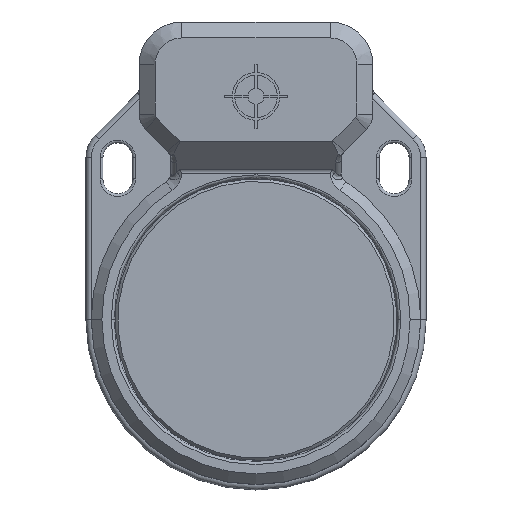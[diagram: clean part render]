
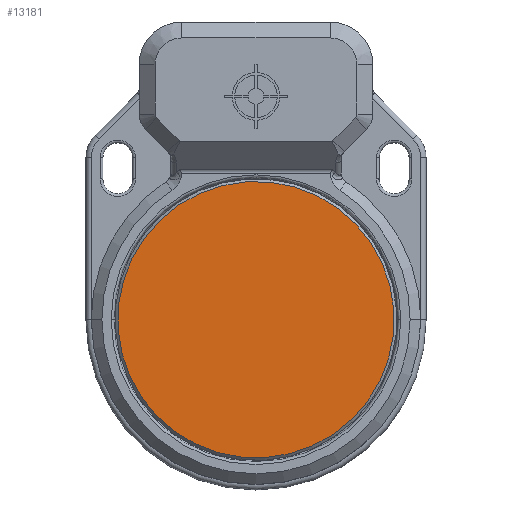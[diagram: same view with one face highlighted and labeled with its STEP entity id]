
A CAD part, top view. The second image highlights one B-rep face of the part: STEP entity #13181.
In plain terms, the highlighted planar face has unit normal (0, 0, 1).
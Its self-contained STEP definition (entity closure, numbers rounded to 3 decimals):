
#149 = EDGE_CURVE ( 'NONE', #5758, #1307, #8754, .T. ) ;
#765 = DIRECTION ( 'NONE',  ( -0.107, -0.994, 0. ) ) ;
#1307 = VERTEX_POINT ( 'NONE', #6384 ) ;
#1371 = EDGE_CURVE ( 'NONE', #1307, #5758, #13168, .T. ) ;
#1971 = EDGE_LOOP ( 'NONE', ( #4551, #3718 ) ) ;
#2498 = AXIS2_PLACEMENT_3D ( 'NONE', #13344, #13293, #13454 ) ;
#3718 = ORIENTED_EDGE ( 'NONE', *, *, #149, .T. ) ;
#4551 = ORIENTED_EDGE ( 'NONE', *, *, #1371, .T. ) ;
#5758 = VERTEX_POINT ( 'NONE', #8329 ) ;
#6384 = CARTESIAN_POINT ( 'NONE',  ( 2.769, 25.852, 26.5 ) ) ;
#7666 = DIRECTION ( 'NONE',  ( 0., 0., 1. ) ) ;
#8329 = CARTESIAN_POINT ( 'NONE',  ( -2.769, -25.852, 26.5 ) ) ;
#8660 = CARTESIAN_POINT ( 'NONE',  ( 0., 0., 26.5 ) ) ;
#8754 = CIRCLE ( 'NONE', #2498, 26. ) ;
#9515 = FACE_OUTER_BOUND ( 'NONE', #1971, .T. ) ;
#10319 = DIRECTION ( 'NONE',  ( -0.107, -0.994, 0. ) ) ;
#12570 = DIRECTION ( 'NONE',  ( 0., 0., 1. ) ) ;
#13168 = CIRCLE ( 'NONE', #14839, 26. ) ;
#13181 = ADVANCED_FACE ( 'NONE', ( #9515 ), #14437, .T. ) ;
#13293 = DIRECTION ( 'NONE',  ( 0., 0., 1. ) ) ;
#13344 = CARTESIAN_POINT ( 'NONE',  ( 0., 0., 26.5 ) ) ;
#13454 = DIRECTION ( 'NONE',  ( -0.107, -0.994, 0. ) ) ;
#13709 = CARTESIAN_POINT ( 'NONE',  ( 0., 0., 26.5 ) ) ;
#13743 = AXIS2_PLACEMENT_3D ( 'NONE', #8660, #7666, #765 ) ;
#14437 = PLANE ( 'NONE',  #13743 ) ;
#14839 = AXIS2_PLACEMENT_3D ( 'NONE', #13709, #12570, #10319 ) ;
